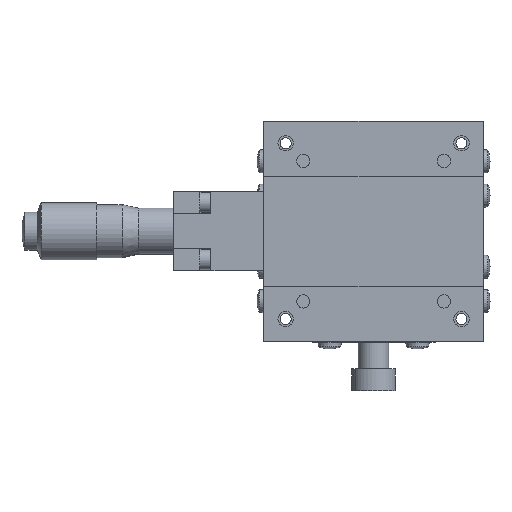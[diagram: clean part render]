
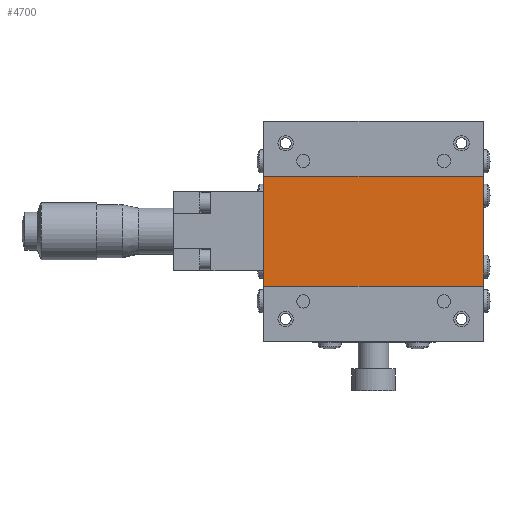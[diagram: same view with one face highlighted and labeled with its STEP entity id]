
A CAD part, front view. The second image highlights one B-rep face of the part: STEP entity #4700.
In plain terms, the highlighted planar face has unit normal (0, -1, 0).
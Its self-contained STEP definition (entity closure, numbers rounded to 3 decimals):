
#2206 = CARTESIAN_POINT ( 'NONE',  ( 25., 0.3, -12.5 ) ) ;
#2220 = DIRECTION ( 'NONE',  ( -1., 0., 0. ) ) ;
#2221 = VECTOR ( 'NONE', #2220, 1000. ) ;
#2222 = CARTESIAN_POINT ( 'NONE',  ( 25., 0.3, -12.5 ) ) ;
#2223 = LINE ( 'NONE', #2222, #2221 ) ;
#2251 = VECTOR ( 'NONE', #2328, 1000. ) ;
#2328 = DIRECTION ( 'NONE',  ( 0., 0., -1. ) ) ;
#2329 = CARTESIAN_POINT ( 'NONE',  ( -25., 0.3, -12.5 ) ) ;
#2330 = LINE ( 'NONE', #2329, #2251 ) ;
#2331 = DIRECTION ( 'NONE',  ( 0., 0., 1. ) ) ;
#2332 = DIRECTION ( 'NONE',  ( 0., 1., 0. ) ) ;
#2333 = CARTESIAN_POINT ( 'NONE',  ( 25., 0.3, -12.5 ) ) ;
#2334 = AXIS2_PLACEMENT_3D ( 'NONE', #2333, #2332, #2331 ) ;
#2335 = PLANE ( 'NONE',  #2334 ) ;
#2336 = FACE_OUTER_BOUND ( 'NONE', #4689, .T. ) ;
#2468 = CARTESIAN_POINT ( 'NONE',  ( 25., 0.3, 12.5 ) ) ;
#2537 = CARTESIAN_POINT ( 'NONE',  ( -25., 0.3, 12.5 ) ) ;
#2582 = CARTESIAN_POINT ( 'NONE',  ( -25., 0.3, -12.5 ) ) ;
#2683 = DIRECTION ( 'NONE',  ( -1., 0., 0. ) ) ;
#2684 = VECTOR ( 'NONE', #2683, 1000. ) ;
#2685 = CARTESIAN_POINT ( 'NONE',  ( 25., 0.3, 12.5 ) ) ;
#2686 = LINE ( 'NONE', #2685, #2684 ) ;
#2688 = DIRECTION ( 'NONE',  ( 0., 0., -1. ) ) ;
#2689 = VECTOR ( 'NONE', #2688, 1000. ) ;
#2690 = CARTESIAN_POINT ( 'NONE',  ( 25., 0.3, -12.5 ) ) ;
#2691 = LINE ( 'NONE', #2690, #2689 ) ;
#4688 = EDGE_CURVE ( 'NONE', #4698, #4996, #2223, .T. ) ;
#4689 = EDGE_LOOP ( 'NONE', ( #4701, #4825, #4859, #4903 ) ) ;
#4698 = VERTEX_POINT ( 'NONE', #2206 ) ;
#4700 = ADVANCED_FACE ( 'NONE', ( #2336 ), #2335, .F. ) ;
#4701 = ORIENTED_EDGE ( 'NONE', *, *, #4702, .T. ) ;
#4702 = EDGE_CURVE ( 'NONE', #4824, #4996, #2330, .T. ) ;
#4824 = VERTEX_POINT ( 'NONE', #2537 ) ;
#4825 = ORIENTED_EDGE ( 'NONE', *, *, #4688, .F. ) ;
#4859 = ORIENTED_EDGE ( 'NONE', *, *, #4902, .F. ) ;
#4860 = VERTEX_POINT ( 'NONE', #2468 ) ;
#4902 = EDGE_CURVE ( 'NONE', #4860, #4698, #2691, .T. ) ;
#4903 = ORIENTED_EDGE ( 'NONE', *, *, #4904, .T. ) ;
#4904 = EDGE_CURVE ( 'NONE', #4860, #4824, #2686, .T. ) ;
#4996 = VERTEX_POINT ( 'NONE', #2582 ) ;
